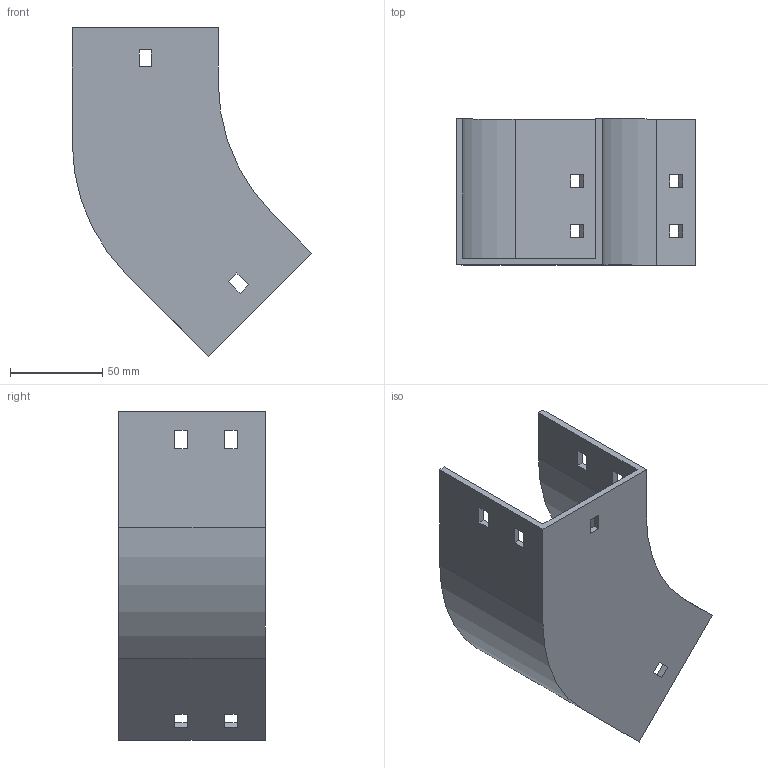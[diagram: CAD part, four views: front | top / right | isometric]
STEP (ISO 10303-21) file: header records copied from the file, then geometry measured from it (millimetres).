
FILE_DESCRIPTION (( 'STEP AP214' ), '1' );
FILE_NAME ('11F1C075.step', '2025-02-21T12:55:53', ( '' ), ( '' ), 'SwSTEP 2.0', 'SolidWorks 2023', '' );
FILE_SCHEMA (( 'AUTOMOTIVE_DESIGN' ));
Length unit declared in the file: millimetre
Products named in the file (1): 11F1C075
Bounding box: 129.5 x 79 x 177.79 mm (x, y, z)
Volume: 136686.7 mm3; surface area: 82084.5 mm2
Topology: 1 solids, 1 shells, 58 faces, 168 edges, 112 vertices
Faces by surface type: plane 54, cylinder 4
Entity records: 1943 total; most frequent: CARTESIAN_POINT 339, ORIENTED_EDGE 336, DIRECTION 294, EDGE_CURVE 168, LINE 160, VECTOR 160, VERTEX_POINT 112, EDGE_LOOP 78
